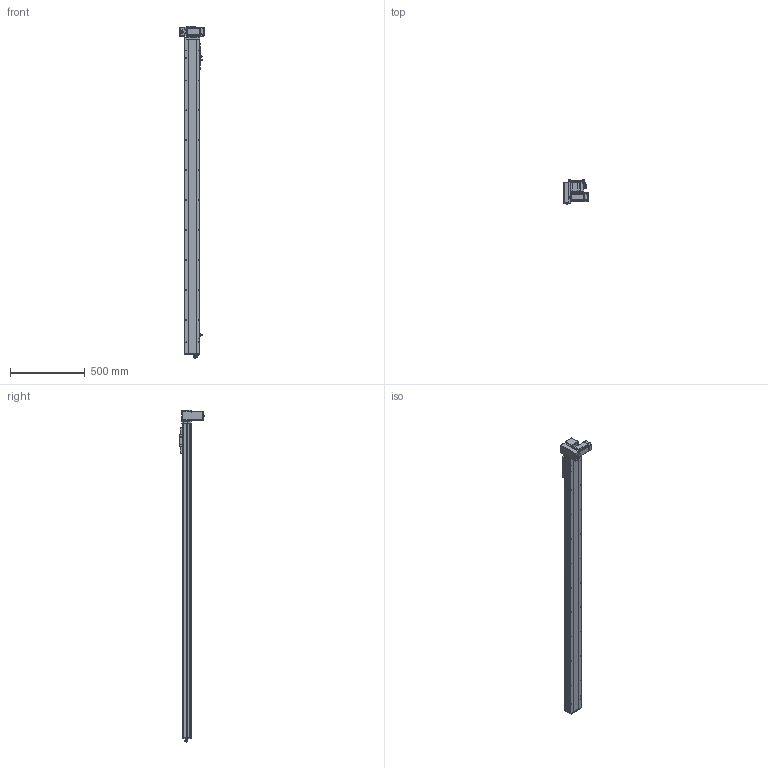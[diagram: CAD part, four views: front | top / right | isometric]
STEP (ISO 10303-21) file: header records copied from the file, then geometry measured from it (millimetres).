
FILE_DESCRIPTION (( 'STEP AP214' ), '1' );
FILE_NAME ('TPE10-L41.6-1850-LD-P20-C4.STEP', '2023-03-13T00:33:32', ( '' ), ( '' ), 'SwSTEP 2.0', 'SolidWorks 2020', '' );
FILE_SCHEMA (( 'AUTOMOTIVE_DESIGN' ));
Length unit declared in the file: millimetre
Products named in the file (16): 葩璃 TPT10-L-009 萇儂啣^TPE10-L41.6-LD-P20-C4_200W; TPE10-L41.6-1850-LD-P20-C4; 葩璃 TPE10-007 々湍釱MZ-169x88^TPE10-L41.6-LD-P20-C4; 葩璃 侂狟100W^TPE10-L41.6-LD-P20-C4; 葩璃 TPE10 賑雄殤 TPE10^TPE10-L41.6-LD-P20-C4; 葩璃 詩湍75^TPE10-L41.6-LD-P20-C4; 葩璃 侂狟400W^TPE10-L41.6-LD-P20-C4; hexagon head bolts-full thread gb_GB_FASTENER_BOLT_STBAB A M5X16-N; 葩璃 pm-t65-672^TPE10-L41.6-LD-P20-C4; hexagon socket head cap screws gb_GB_FASTENER_SCREWS_HSHCS M3X6-N; hex nuts, style 1-grades ab gb_GB_FASTENER_NUT_SNAB1 M3-N; 葩璃 TPE10-L-002 耜裔ZTMT-102B-04^TPE10-L41.6-LD-P20-C4; 葩璃 PL8-02^TPE10-L41.6-LD-P20-C4; 葩璃 TPF10 詩湍揤啣 TPF10 12^TPE10-L41.6-LD-P20-C4; 葩璃 TPF10-L-008 耜醱啣^TPE10-L41.6-LD-P20-C4; 葩璃 TPE10-L-001 菁釱MZ-102A-01^TPE10-L41.6-LD-P20-C4
Assembly tree (29 placements, depth 2):
  TPE10-L41.6-1850-LD-P20-C4
    葩璃 TPE10-L-001 菁釱MZ-102A-01^TPE10-L41.6-LD-P20-C4
    葩璃 TPE10-L-002 耜裔ZTMT-102B-04^TPE10-L41.6-LD-P20-C4  x2
    葩璃 詩湍75^TPE10-L41.6-LD-P20-C4
    葩璃 TPE10-007 々湍釱MZ-169x88^TPE10-L41.6-LD-P20-C4
    葩璃 TPF10-L-008 耜醱啣^TPE10-L41.6-LD-P20-C4
    葩璃 TPE10 賑雄殤 TPE10^TPE10-L41.6-LD-P20-C4
    葩璃 TPF10 詩湍揤啣 TPF10 12^TPE10-L41.6-LD-P20-C4  x2
    葩璃 TPT10-L-009 萇儂啣^TPE10-L41.6-LD-P20-C4_200W
    葩璃 pm-t65-672^TPE10-L41.6-LD-P20-C4  x3
    葩璃 PL8-02^TPE10-L41.6-LD-P20-C4
    葩璃 侂狟100W^TPE10-L41.6-LD-P20-C4
    葩璃 侂狟400W^TPE10-L41.6-LD-P20-C4
    hexagon socket head cap screws gb_GB_FASTENER_SCREWS_HSHCS M3X6-N  x6
    hex nuts, style 1-grades ab gb_GB_FASTENER_NUT_SNAB1 M3-N  x6
    hexagon head bolts-full thread gb_GB_FASTENER_BOLT_STBAB A M5X16-N
Bounding box: 162.5 x 162.15 x 2218.35 mm (x, y, z)
Volume: 7165366.8 mm3; surface area: 1745090.1 mm2
Topology: 37 solids, 37 shells, 2069 faces, 5301 edges, 3354 vertices
Faces by surface type: plane 1106, cylinder 657, cone 236, bspline 42, torus 26, sphere 2
Entity records: 51972 total; most frequent: CARTESIAN_POINT 10656, DIRECTION 8344, ORIENTED_EDGE 8002, EDGE_CURVE 4001, AXIS2_PLACEMENT_3D 2940, VERTEX_POINT 2581, LINE 2464, VECTOR 2464
